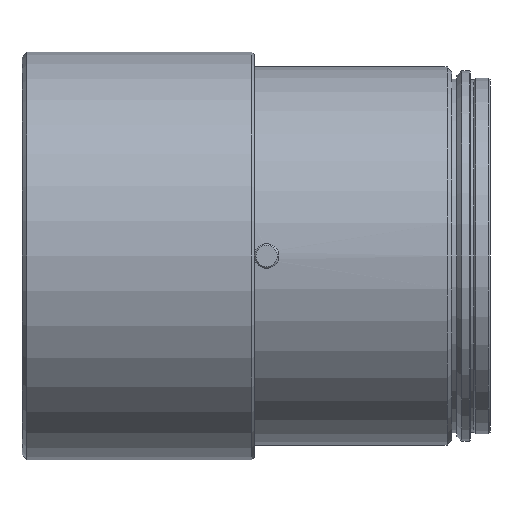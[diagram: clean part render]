
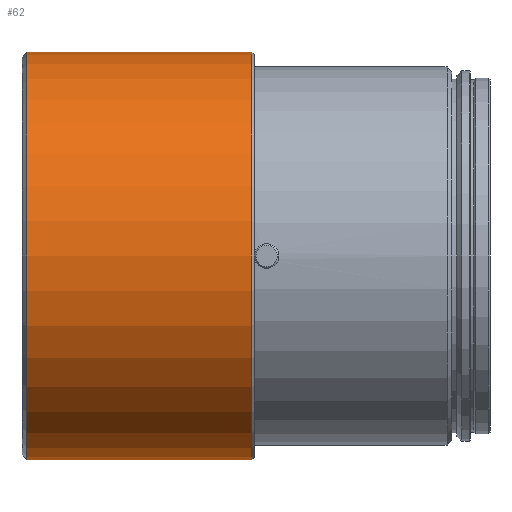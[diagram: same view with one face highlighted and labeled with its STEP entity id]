
A CAD part, front view. The second image highlights one B-rep face of the part: STEP entity #62.
In plain terms, the highlighted cylindrical face has radius 41.25 mm (diameter 82.5 mm), a partial arc.
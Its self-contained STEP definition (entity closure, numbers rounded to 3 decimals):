
#10 = ORIENTED_EDGE ( 'NONE', *, *, #1908, .T. ) ;
#62 = ADVANCED_FACE ( 'NONE', ( #345 ), #475, .T. ) ;
#127 = VERTEX_POINT ( 'NONE', #450 ) ;
#311 = CIRCLE ( 'NONE', #2400, 41.25 ) ;
#345 = FACE_OUTER_BOUND ( 'NONE', #397, .T. ) ;
#397 = EDGE_LOOP ( 'NONE', ( #2948, #10, #749, #485 ) ) ;
#450 = CARTESIAN_POINT ( 'NONE',  ( 46.5, 0., -41.25 ) ) ;
#453 = VERTEX_POINT ( 'NONE', #529 ) ;
#475 = CYLINDRICAL_SURFACE ( 'NONE', #494, 41.25 ) ;
#485 = ORIENTED_EDGE ( 'NONE', *, *, #2201, .F. ) ;
#491 = CARTESIAN_POINT ( 'NONE',  ( 1., 0., 0. ) ) ;
#494 = AXIS2_PLACEMENT_3D ( 'NONE', #1630, #2557, #2093 ) ;
#529 = CARTESIAN_POINT ( 'NONE',  ( 46.5, 0., 41.25 ) ) ;
#713 = LINE ( 'NONE', #2901, #2669 ) ;
#749 = ORIENTED_EDGE ( 'NONE', *, *, #2131, .T. ) ;
#894 = LINE ( 'NONE', #1663, #1383 ) ;
#1091 = CARTESIAN_POINT ( 'NONE',  ( 46.5, 0., 0. ) ) ;
#1207 = DIRECTION ( 'NONE',  ( 0., 0., 1. ) ) ;
#1383 = VECTOR ( 'NONE', #2591, 1000. ) ;
#1630 = CARTESIAN_POINT ( 'NONE',  ( 0., 0., 0. ) ) ;
#1642 = CIRCLE ( 'NONE', #2865, 41.25 ) ;
#1663 = CARTESIAN_POINT ( 'NONE',  ( 0., 0., 41.25 ) ) ;
#1767 = CARTESIAN_POINT ( 'NONE',  ( 1., 0., -41.25 ) ) ;
#1908 = EDGE_CURVE ( 'NONE', #127, #453, #311, .T. ) ;
#2046 = DIRECTION ( 'NONE',  ( -1., 0., 0. ) ) ;
#2093 = DIRECTION ( 'NONE',  ( 0., 0., 1. ) ) ;
#2101 = CARTESIAN_POINT ( 'NONE',  ( 1., 0., 41.25 ) ) ;
#2131 = EDGE_CURVE ( 'NONE', #453, #2649, #894, .T. ) ;
#2201 = EDGE_CURVE ( 'NONE', #2500, #2649, #1642, .T. ) ;
#2287 = EDGE_CURVE ( 'NONE', #127, #2500, #713, .T. ) ;
#2400 = AXIS2_PLACEMENT_3D ( 'NONE', #1091, #2046, #3010 ) ;
#2500 = VERTEX_POINT ( 'NONE', #1767 ) ;
#2557 = DIRECTION ( 'NONE',  ( -1., 0., 0. ) ) ;
#2591 = DIRECTION ( 'NONE',  ( -1., 0., 0. ) ) ;
#2623 = DIRECTION ( 'NONE',  ( -1., 0., 0. ) ) ;
#2649 = VERTEX_POINT ( 'NONE', #2101 ) ;
#2662 = DIRECTION ( 'NONE',  ( -1., 0., 0. ) ) ;
#2669 = VECTOR ( 'NONE', #2662, 1000. ) ;
#2865 = AXIS2_PLACEMENT_3D ( 'NONE', #491, #2623, #1207 ) ;
#2901 = CARTESIAN_POINT ( 'NONE',  ( 0., 0., -41.25 ) ) ;
#2948 = ORIENTED_EDGE ( 'NONE', *, *, #2287, .F. ) ;
#3010 = DIRECTION ( 'NONE',  ( 0., 0., 1. ) ) ;
